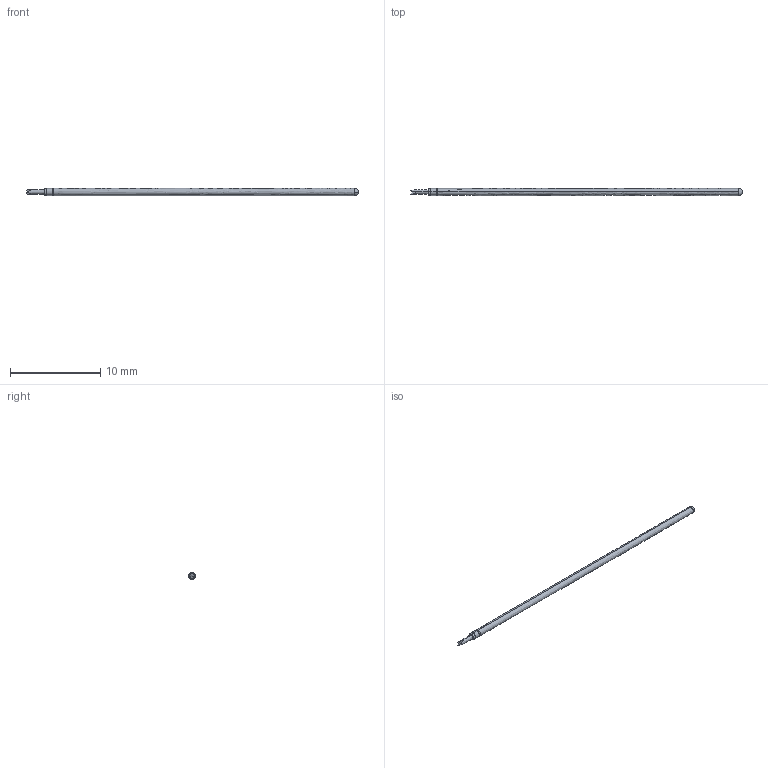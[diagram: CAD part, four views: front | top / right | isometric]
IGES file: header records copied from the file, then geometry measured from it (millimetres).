
Start section: SolidWorks IGES file using analytic representation for surfaces
Global section: file name: L:\probe solid model mockups\Solidworks models\POGO-72U Full.IGS; native system: SolidWorks 2006 by SolidWorks Corporation; preprocessor: SolidWorks 2006 by SolidWorks Corporation; author: Ksnyder; date: 071211.140223; units: inch
Bounding box: 36.83 x 0.79 x 0.79 mm (x, y, z)
Surface area: 172.3 mm2
Topology: 1 solids, 1 shells, 24 faces, 52 edges, 29 vertices
Faces by surface type: revolution 16, plane 8
